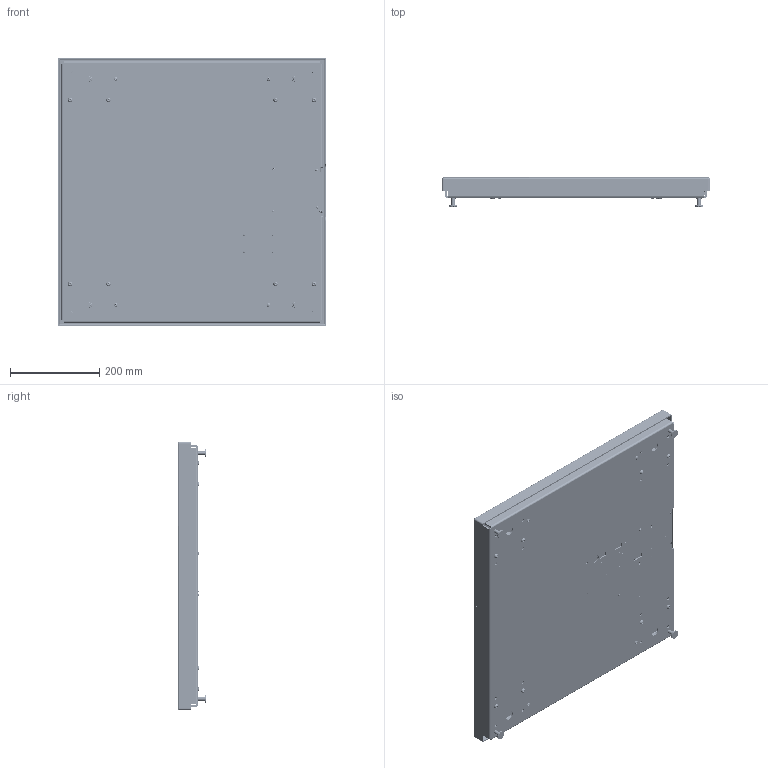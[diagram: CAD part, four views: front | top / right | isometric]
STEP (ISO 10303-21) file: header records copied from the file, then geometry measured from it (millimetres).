
FILE_DESCRIPTION (( 'STEP AP214' ), '1' );
FILE_NAME ('E-SCALE-6610-2424-130.STEP', '2019-08-29T22:28:54', ( '' ), ( '' ), 'SwSTEP 2.0', 'SolidWorks 2017', '' );
FILE_SCHEMA (( 'AUTOMOTIVE_DESIGN' ));
Length unit declared in the file: millimetre
Products named in the file (57): lock washer spring regular_ai_Regular LW 0.112; 6610 Bare Board; 2815-0169-0_91780A521; 0075294; 5126-0009-0; 0074883_91290A248; 0075232_80-001903; 0075200_93505A451; 0075175_84-227974; 0530-0854-XX-0; pan cross head_ai_CR-PHMS 0.164-32x0.3125x0.3125-N-A2.70; 2143-T004; 0075233; 0530-0856-01-0; 0074915_Modified By Hardy_Default<As Machined>; 0075172_A3, A4 & A5; 0075290; 2817-0272-0_90402A146; 0018546; flat head screw_ai_CR-FHMS 0.164-32x0.875x0.875-N-A2.70; 0530-0853-01-0; 0074757_Modified By Hardy; 0066958; 0075293; Bivar Spacer_TO-201-040; 0535-0567-02-0 WO Ethernet Port; E-SCALE-6610-2424-130; 0074881_PBSH-15kg SUB-ASSEMBLY; hex jam nut_ai_HJNUT 0.2500-20-D-N; 2140-0144-09-0; Phoenix_1803646; 0075173_B4; 0075295; 0075309; mcv_1.5-9-g-3.81_1; 0074871; 0074918; pan cross head_ai_CR-PHMS 0.112-40x0.5x0.5-N; 0075174_3 & 4; 0514-0242-01-0_Rev A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
Assembly tree (118 placements, depth 4):
  E-SCALE-6610-2424-130
    0074904
      0074915_Modified By Hardy_Default<As Machined>
      0074918  x4
      0078239
    0075309
    0075175_84-227974  x4
      0075172_A3, A4 & A5
      0075174_3 & 4
      0075173_B4
    hex jam nut_ai_HJNUT 0.2500-20-D-N  x4
    0074757_Modified By Hardy
    0075198  x4
    0075200_93505A451  x4
    0075290
      0075233
      0018546  x4
      0075287_C2 CHIP
      0075295  x4
        0075294
        0075293
    pan cross head_ai_CR-PHMS 0.164-32x0.3125x0.3125-N-A2.70  x4
    0074881_PBSH-15kg SUB-ASSEMBLY  x4
      0074871
      0044535
      0066958
      0074883_91290A248
    0075231_PBSH-60kg 600 X 600  x4
      0075230_91780A198
      0075232_80-001903
      flat head screw_ai_CR-FHMS 0.164-32x0.875x0.875-N-A2.70
      pan cross head_ai_CR-PHMS 0.164-32x0.3125x0.3125-N-A2.70
    socket button head cap screw_am_B18.3.4M - 6 x 1.0 x 20 SBHCS --N-A2.70  x8
    0075304_42-000189
    2814-0098-0_90633A007  x2
    2143-T004
    2143-T013
    flat washer type a selected narrow_ai_Selected Narrow FW 0.125  x5
    2814-T011_90631A005
    0514-0242-01-0_Rev A
    2817-0272-0_90402A146
    0535-0567-02-0 WO Ethernet Port
      6610 Bare Board
      Chassis fastener Winchester Electronics A1591B  x2
      red_green_LED
      5126-0009-0
      Amphenol_RJHSE-5080-02-REVT1
      2140-0144-09-0
        mcv_1.5-9-g-3.81_1
      Phoenix_1803646
      Bivar Spacer_TO-201-040  x4
    pan cross head_ai_CR-PHMS 0.112-40x0.5x0.5-N  x4
    2815-0169-0_91780A521  x7
    2815-0168-0_91780A534
    lock washer spring regular_ai_Regular LW 0.112  x4
    0530-0853-01-0
    0530-0856-01-0
    0530-0854-XX-0
Bounding box: 600.13 x 64.1 x 600 mm (x, y, z)
Volume: 2795649.1 mm3; surface area: 1903695.8 mm2
Topology: 673 solids, 676 shells, 17896 faces, 45973 edges, 29921 vertices
Faces by surface type: plane 9199, bspline 5056, cylinder 2455, cone 1030, torus 110, sphere 46
Entity records: 619839 total; most frequent: CARTESIAN_POINT 170154, ORIENTED_EDGE 75370, DIRECTION 48351, EDGE_CURVE 37690, VERTEX_POINT 24818, LINE 23523, VECTOR 23523, EDGE_LOOP 15436
